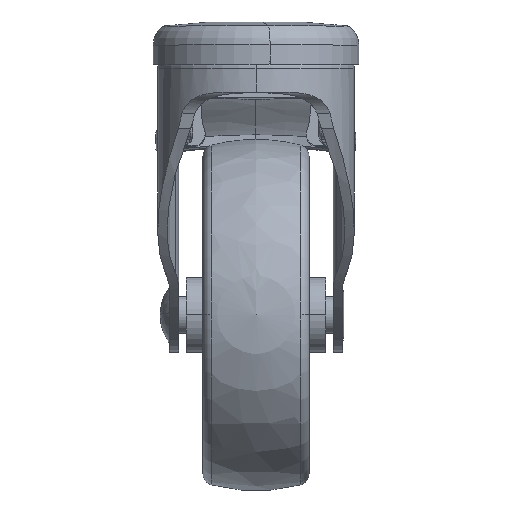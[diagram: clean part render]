
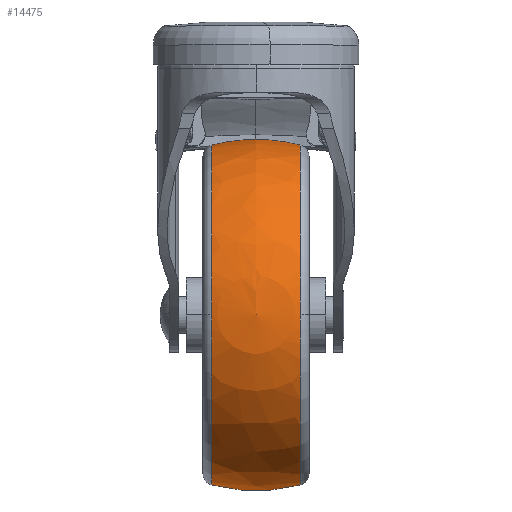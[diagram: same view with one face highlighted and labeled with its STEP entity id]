
A CAD part, top view. The second image highlights one B-rep face of the part: STEP entity #14475.
In plain terms, the highlighted spherical face has radius 37.5 mm.
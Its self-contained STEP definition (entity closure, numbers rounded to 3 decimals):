
#2888 = CARTESIAN_POINT ( 'NONE',  ( 9.482, -93.781, -37.5 ) ) ;
#2897 = CARTESIAN_POINT ( 'NONE',  ( -9.482, -21.219, -37.5 ) ) ;
#2901 = CARTESIAN_POINT ( 'NONE',  ( 9.482, -21.219, -37.5 ) ) ;
#2906 = CARTESIAN_POINT ( 'NONE',  ( -9.482, -93.781, -37.5 ) ) ;
#2908 = CARTESIAN_POINT ( 'NONE',  ( 9.482, -57.5, -1.219 ) ) ;
#2925 = CARTESIAN_POINT ( 'NONE',  ( -9.482, -57.5, -1.219 ) ) ;
#8288 = CIRCLE ( 'NONE', #8293, 37.5 ) ;
#8293 = AXIS2_PLACEMENT_3D ( 'NONE', #25344, #25346, #25347 ) ;
#8296 = CIRCLE ( 'NONE', #8301, 37.5 ) ;
#8301 = AXIS2_PLACEMENT_3D ( 'NONE', #25357, #25358, #25359 ) ;
#8306 = CIRCLE ( 'NONE', #8309, 36.281 ) ;
#8309 = AXIS2_PLACEMENT_3D ( 'NONE', #25371, #25372, #25373 ) ;
#8348 = CIRCLE ( 'NONE', #8353, 36.281 ) ;
#8353 = AXIS2_PLACEMENT_3D ( 'NONE', #25456, #25458, #25459 ) ;
#8358 = CIRCLE ( 'NONE', #8361, 36.281 ) ;
#8361 = AXIS2_PLACEMENT_3D ( 'NONE', #25473, #25474, #25475 ) ;
#8380 = CIRCLE ( 'NONE', #8383, 36.281 ) ;
#8383 = AXIS2_PLACEMENT_3D ( 'NONE', #25515, #25516, #25517 ) ;
#14475 = ADVANCED_FACE ( 'NONE', ( #22650 ), #22653, .T. ) ;
#15659 = EDGE_CURVE ( 'NONE', #21754, #21772, #8288, .T. ) ;
#15666 = EDGE_CURVE ( 'NONE', #21767, #21763, #8296, .T. ) ;
#15674 = EDGE_CURVE ( 'NONE', #21774, #21767, #8306, .T. ) ;
#15716 = EDGE_CURVE ( 'NONE', #21791, #21763, #8348, .T. ) ;
#15723 = EDGE_CURVE ( 'NONE', #21772, #21791, #8358, .T. ) ;
#15747 = EDGE_CURVE ( 'NONE', #21754, #21774, #8380, .T. ) ;
#21754 = VERTEX_POINT ( 'NONE', #2888 ) ;
#21763 = VERTEX_POINT ( 'NONE', #2897 ) ;
#21767 = VERTEX_POINT ( 'NONE', #2901 ) ;
#21772 = VERTEX_POINT ( 'NONE', #2906 ) ;
#21774 = VERTEX_POINT ( 'NONE', #2908 ) ;
#21791 = VERTEX_POINT ( 'NONE', #2925 ) ;
#22649 = CARTESIAN_POINT ( 'NONE',  ( 0., -57.5, -37.5 ) ) ;
#22650 = FACE_OUTER_BOUND ( 'NONE', #24592, .T. ) ;
#22653 = SPHERICAL_SURFACE ( 'NONE', #25090, 37.5 ) ;
#22656 = DIRECTION ( 'NONE',  ( 0., 0., -1. ) ) ;
#22657 = DIRECTION ( 'NONE',  ( 0., 1., 0. ) ) ;
#24292 = ORIENTED_EDGE ( 'NONE', *, *, #15659, .F. ) ;
#24293 = ORIENTED_EDGE ( 'NONE', *, *, #15747, .T. ) ;
#24294 = ORIENTED_EDGE ( 'NONE', *, *, #15674, .T. ) ;
#24295 = ORIENTED_EDGE ( 'NONE', *, *, #15666, .T. ) ;
#24296 = ORIENTED_EDGE ( 'NONE', *, *, #15716, .F. ) ;
#24297 = ORIENTED_EDGE ( 'NONE', *, *, #15723, .F. ) ;
#24592 = EDGE_LOOP ( 'NONE', ( #24292, #24293, #24294, #24295, #24296, #24297 ) ) ;
#25090 = AXIS2_PLACEMENT_3D ( 'NONE', #22649, #22656, #22657 ) ;
#25344 = CARTESIAN_POINT ( 'NONE',  ( 0., -57.5, -37.5 ) ) ;
#25346 = DIRECTION ( 'NONE',  ( 0., 0., -1. ) ) ;
#25347 = DIRECTION ( 'NONE',  ( 0., 1., 0. ) ) ;
#25357 = CARTESIAN_POINT ( 'NONE',  ( 0., -57.5, -37.5 ) ) ;
#25358 = DIRECTION ( 'NONE',  ( 0., 0., 1. ) ) ;
#25359 = DIRECTION ( 'NONE',  ( 1., 0., 0. ) ) ;
#25371 = CARTESIAN_POINT ( 'NONE',  ( 9.482, -57.5, -37.5 ) ) ;
#25372 = DIRECTION ( 'NONE',  ( -1., 0., 0. ) ) ;
#25373 = DIRECTION ( 'NONE',  ( 0., 0., 1. ) ) ;
#25456 = CARTESIAN_POINT ( 'NONE',  ( -9.482, -57.5, -37.5 ) ) ;
#25458 = DIRECTION ( 'NONE',  ( -1., 0., 0. ) ) ;
#25459 = DIRECTION ( 'NONE',  ( 0., 0., 1. ) ) ;
#25473 = CARTESIAN_POINT ( 'NONE',  ( -9.482, -57.5, -37.5 ) ) ;
#25474 = DIRECTION ( 'NONE',  ( -1., 0., 0. ) ) ;
#25475 = DIRECTION ( 'NONE',  ( 0., 0., 1. ) ) ;
#25515 = CARTESIAN_POINT ( 'NONE',  ( 9.482, -57.5, -37.5 ) ) ;
#25516 = DIRECTION ( 'NONE',  ( -1., 0., 0. ) ) ;
#25517 = DIRECTION ( 'NONE',  ( 0., 0., 1. ) ) ;
